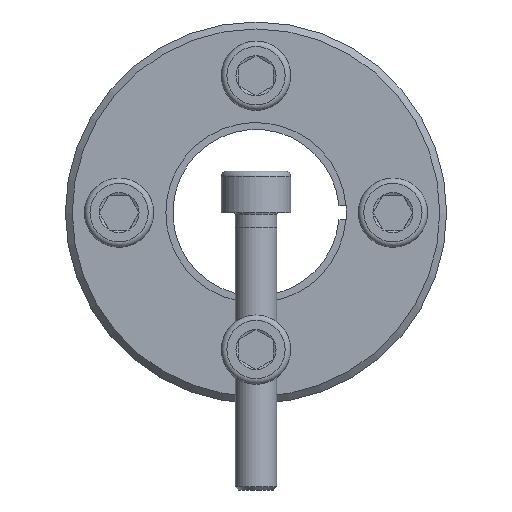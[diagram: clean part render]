
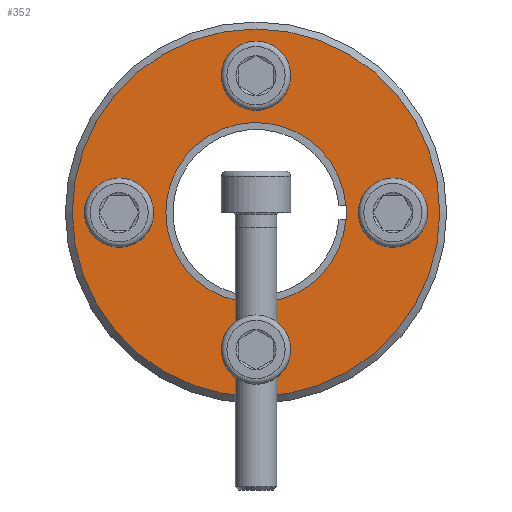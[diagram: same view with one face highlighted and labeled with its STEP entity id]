
A CAD part, front view. The second image highlights one B-rep face of the part: STEP entity #352.
In plain terms, the highlighted planar face has unit normal (0, -1, 0).
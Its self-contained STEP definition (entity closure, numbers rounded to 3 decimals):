
#352 = ADVANCED_FACE( '', ( #551, #552, #553, #554, #555, #556 ), #557, .F. );
#551 = FACE_OUTER_BOUND( '', #701, .T. );
#552 = FACE_BOUND( '', #702, .T. );
#553 = FACE_BOUND( '', #703, .T. );
#554 = FACE_BOUND( '', #704, .T. );
#555 = FACE_BOUND( '', #705, .T. );
#556 = FACE_BOUND( '', #706, .T. );
#557 = PLANE( '', #707 );
#701 = EDGE_LOOP( '', ( #874 ) );
#702 = EDGE_LOOP( '', ( #875 ) );
#703 = EDGE_LOOP( '', ( #876 ) );
#704 = EDGE_LOOP( '', ( #877 ) );
#705 = EDGE_LOOP( '', ( #878 ) );
#706 = EDGE_LOOP( '', ( #879, #880, #881, #882 ) );
#707 = AXIS2_PLACEMENT_3D( '', #883, #884, #885 );
#874 = ORIENTED_EDGE( '', *, *, #1219, .T. );
#875 = ORIENTED_EDGE( '', *, *, #1220, .T. );
#876 = ORIENTED_EDGE( '', *, *, #1221, .T. );
#877 = ORIENTED_EDGE( '', *, *, #1222, .T. );
#878 = ORIENTED_EDGE( '', *, *, #1223, .T. );
#879 = ORIENTED_EDGE( '', *, *, #1224, .F. );
#880 = ORIENTED_EDGE( '', *, *, #1225, .T. );
#881 = ORIENTED_EDGE( '', *, *, #1226, .T. );
#882 = ORIENTED_EDGE( '', *, *, #1227, .F. );
#883 = CARTESIAN_POINT( '', ( 0., 0., 27.5 ) );
#884 = DIRECTION( '', ( 0., 1., 0. ) );
#885 = DIRECTION( '', ( 0., 0., 1. ) );
#1219 = EDGE_CURVE( '', #1342, #1342, #1343, .F. );
#1220 = EDGE_CURVE( '', #1344, #1344, #1345, .T. );
#1221 = EDGE_CURVE( '', #1346, #1346, #1347, .T. );
#1222 = EDGE_CURVE( '', #1348, #1348, #1349, .T. );
#1223 = EDGE_CURVE( '', #1350, #1350, #1351, .T. );
#1224 = EDGE_CURVE( '', #1352, #1353, #1354, .T. );
#1225 = EDGE_CURVE( '', #1352, #1355, #1356, .T. );
#1226 = EDGE_CURVE( '', #1355, #1357, #1358, .T. );
#1227 = EDGE_CURVE( '', #1353, #1357, #1359, .T. );
#1342 = VERTEX_POINT( '', #1450 );
#1343 = CIRCLE( '', #1451, 26.5 );
#1344 = VERTEX_POINT( '', #1452 );
#1345 = CIRCLE( '', #1453, 3. );
#1346 = VERTEX_POINT( '', #1454 );
#1347 = CIRCLE( '', #1455, 3. );
#1348 = VERTEX_POINT( '', #1456 );
#1349 = CIRCLE( '', #1457, 3. );
#1350 = VERTEX_POINT( '', #1458 );
#1351 = CIRCLE( '', #1459, 3. );
#1352 = VERTEX_POINT( '', #1460 );
#1353 = VERTEX_POINT( '', #1461 );
#1354 = CIRCLE( '', #1462, 13. );
#1355 = VERTEX_POINT( '', #1463 );
#1356 = LINE( '', #1464, #1465 );
#1357 = VERTEX_POINT( '', #1466 );
#1358 = LINE( '', #1467, #1468 );
#1359 = LINE( '', #1469, #1470 );
#1450 = CARTESIAN_POINT( '', ( 0., 0., 26.5 ) );
#1451 = AXIS2_PLACEMENT_3D( '', #1606, #1607, #1608 );
#1452 = CARTESIAN_POINT( '', ( -19.75, 0., 3. ) );
#1453 = AXIS2_PLACEMENT_3D( '', #1609, #1610, #1611 );
#1454 = CARTESIAN_POINT( '', ( -3., 0., -19.75 ) );
#1455 = AXIS2_PLACEMENT_3D( '', #1612, #1613, #1614 );
#1456 = CARTESIAN_POINT( '', ( 19.75, 0., -3. ) );
#1457 = AXIS2_PLACEMENT_3D( '', #1615, #1616, #1617 );
#1458 = CARTESIAN_POINT( '', ( 3., 0., 19.75 ) );
#1459 = AXIS2_PLACEMENT_3D( '', #1618, #1619, #1620 );
#1460 = CARTESIAN_POINT( '', ( 12.961, 0., 1. ) );
#1461 = CARTESIAN_POINT( '', ( 12.961, 0., -1. ) );
#1462 = AXIS2_PLACEMENT_3D( '', #1621, #1622, #1623 );
#1463 = CARTESIAN_POINT( '', ( 13., 0., 1. ) );
#1464 = CARTESIAN_POINT( '', ( 0., 0., 1. ) );
#1465 = VECTOR( '', #1624, 1000. );
#1466 = CARTESIAN_POINT( '', ( 13., 0., -1. ) );
#1467 = CARTESIAN_POINT( '', ( 13., 0., 1. ) );
#1468 = VECTOR( '', #1625, 1000. );
#1469 = CARTESIAN_POINT( '', ( 0., 0., -1. ) );
#1470 = VECTOR( '', #1626, 1000. );
#1606 = CARTESIAN_POINT( '', ( 0., 0., 0. ) );
#1607 = DIRECTION( '', ( 0., 1., 0. ) );
#1608 = DIRECTION( '', ( 0., 0., 1. ) );
#1609 = CARTESIAN_POINT( '', ( -19.75, 0., 0. ) );
#1610 = DIRECTION( '', ( 0., 1., 0. ) );
#1611 = DIRECTION( '', ( 0., 0., 1. ) );
#1612 = CARTESIAN_POINT( '', ( 0., 0., -19.75 ) );
#1613 = DIRECTION( '', ( 0., 1., 0. ) );
#1614 = DIRECTION( '', ( -1., 0., 0. ) );
#1615 = CARTESIAN_POINT( '', ( 19.75, 0., 0. ) );
#1616 = DIRECTION( '', ( 0., 1., 0. ) );
#1617 = DIRECTION( '', ( 0., 0., -1. ) );
#1618 = CARTESIAN_POINT( '', ( 0., 0., 19.75 ) );
#1619 = DIRECTION( '', ( 0., 1., 0. ) );
#1620 = DIRECTION( '', ( 1., 0., 0. ) );
#1621 = CARTESIAN_POINT( '', ( 0., 0., 0. ) );
#1622 = DIRECTION( '', ( 0., -1., 0. ) );
#1623 = DIRECTION( '', ( 0., 0., -1. ) );
#1624 = DIRECTION( '', ( 1., 0., 0. ) );
#1625 = DIRECTION( '', ( 0., 0., -1. ) );
#1626 = DIRECTION( '', ( 1., 0., 0. ) );
